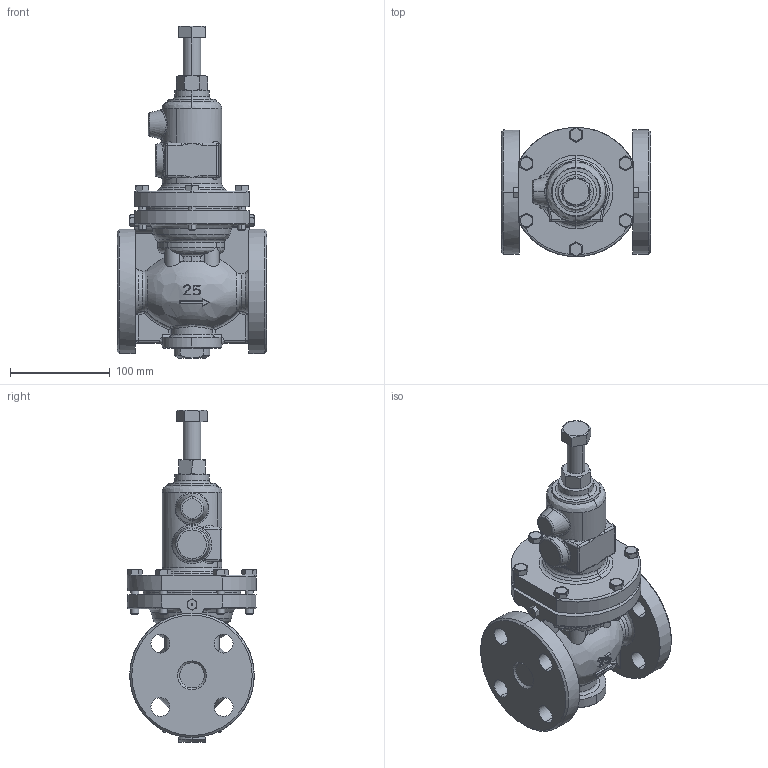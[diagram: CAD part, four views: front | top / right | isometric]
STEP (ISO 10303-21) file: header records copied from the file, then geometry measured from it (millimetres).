
FILE_DESCRIPTION( (''), '2;1');
FILE_NAME ('PC1056.10872.GD-200(25A)_28197.stp','2024-09-11T16:18:15',(''),(''),'spGate 19.8.4 (****-****-****-****)','','');
FILE_SCHEMA (('AUTOMOTIVE_DESIGN'));
Length unit declared in the file: millimetre
Products named in the file (4): Assembly; GD200(25)本体P; GD200保護筒15A25A; CP_''_JIS B 1181 六角ナット 2種 上 ''_700
Assembly tree (3 placements, depth 2):
  Assembly
    GD200(25)本体P
    GD200保護筒15A25A
    CP_''_JIS B 1181 六角ナット 2種 上 ''_700
Bounding box: 150 x 130.01 x 333.61 mm (x, y, z)
Volume: 1704330.8 mm3; surface area: 199676 mm2
Topology: 3 solids, 3 shells, 499 faces, 1282 edges, 800 vertices
Faces by surface type: bspline 186, plane 159, cylinder 148, sphere 6
Entity records: 32521 total; most frequent: CARTESIAN_POINT 12086, ORIENTED_EDGE 2536, COLOUR_RGB 1770, PRESENTATION_STYLE_ASSIGNMENT 1770, STYLED_ITEM 1770, DIRECTION 1750, EDGE_CURVE 1268, DRAUGHTING_PRE_DEFINED_CURVE_FONT 1268
